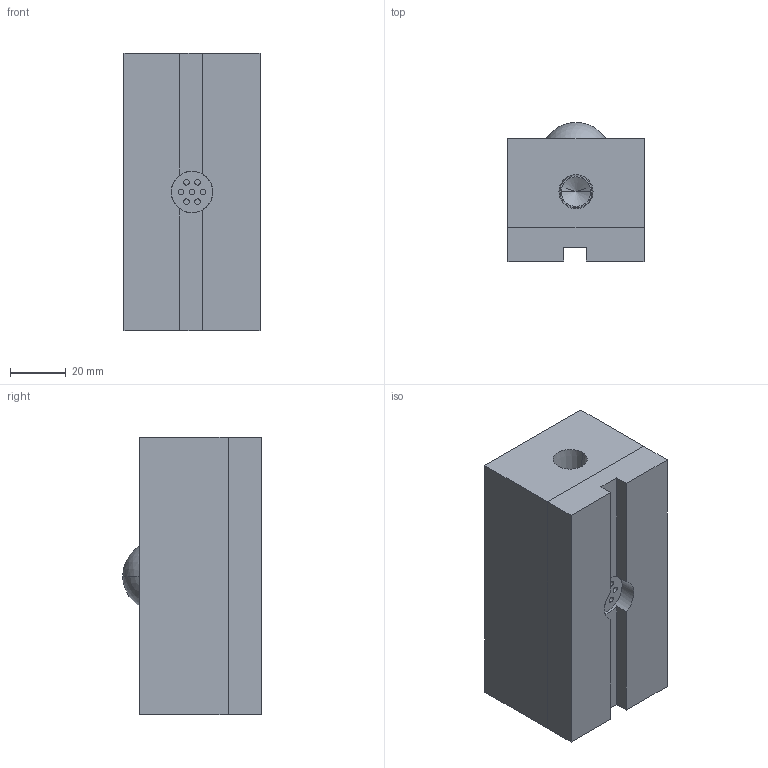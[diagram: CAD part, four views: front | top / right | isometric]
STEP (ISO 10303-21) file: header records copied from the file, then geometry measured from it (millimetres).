
FILE_DESCRIPTION (( 'STEP AP203' ), '1' );
FILE_NAME ('PVL55SH-1.STEP', '2016-01-25T01:00:34', ( '' ), ( '' ), 'SwSTEP 2.0', 'SolidWorks 2013', '' );
FILE_SCHEMA (( 'CONFIG_CONTROL_DESIGN' ));
Length unit declared in the file: millimetre
Products named in the file (1): PVL55SH-1
Bounding box: 49 x 50 x 100 mm (x, y, z)
Volume: 204538.9 mm3; surface area: 39087.7 mm2
Topology: 2 solids, 2 shells, 84 faces, 188 edges, 124 vertices
Faces by surface type: cylinder 42, plane 36, cone 4, sphere 2
Entity records: 2457 total; most frequent: DIRECTION 452, CARTESIAN_POINT 395, ORIENTED_EDGE 372, EDGE_CURVE 186, AXIS2_PLACEMENT_3D 181, VERTEX_POINT 124, EDGE_LOOP 110, CIRCLE 96
